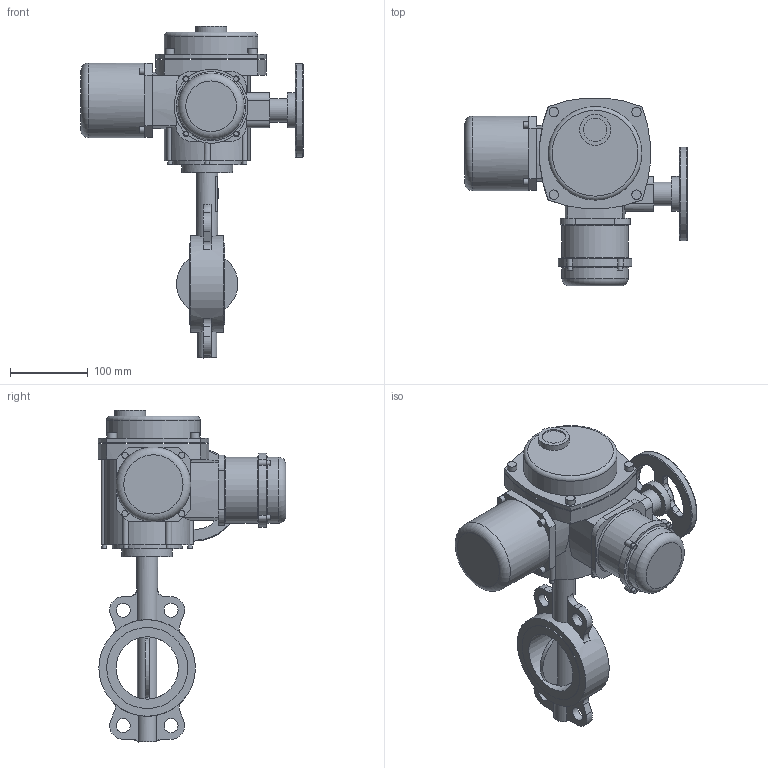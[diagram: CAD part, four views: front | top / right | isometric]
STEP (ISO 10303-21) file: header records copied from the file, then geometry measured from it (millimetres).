
FILE_DESCRIPTION(('STEP AP203'), '1');
FILE_NAME('青蜮铕 017W.Y_DN80_QT.Z 10', '', ('UNSPECIFIED'), ('UNSPECIFIED'), 'ASCON STEP Converter 1.6', 'ASCON Math Kernel', '');
FILE_SCHEMA(('CONFIG_CONTROL_DESIGN'));
Length unit declared in the file: millimetre
Bounding box: 285 x 240.97 x 426 mm (x, y, z)
Volume: 4037586.9 mm3; surface area: 344727.3 mm2
Topology: 1 solids, 1 shells, 339 faces, 812 edges, 510 vertices
Faces by surface type: cylinder 152, plane 135, torus 40, cone 12
Full cylindrical faces by diameter (mm): 4.917 x4, 6 x10, 6.647 x4, 8 x8, 12 x4, 12.386 x1, 12.6 x1, 18 x4, 25 x1, 27 x1, 30 x2, 35 x1, 40 x1, 45 x1, 55 x1, 65 x1, 80 x1, 85 x2, 90 x1, 96 x1, 103.9 x2, 120 x2, 123.9 x1
Entity records: 14340 total; most frequent: CARTESIAN_POINT 3749, DIRECTION 1778, ORIENTED_EDGE 1454, AXIS2_PLACEMENT_3D 757, EDGE_CURVE 727, VERTEX_POINT 501, EDGE_LOOP 477, CIRCLE 417
